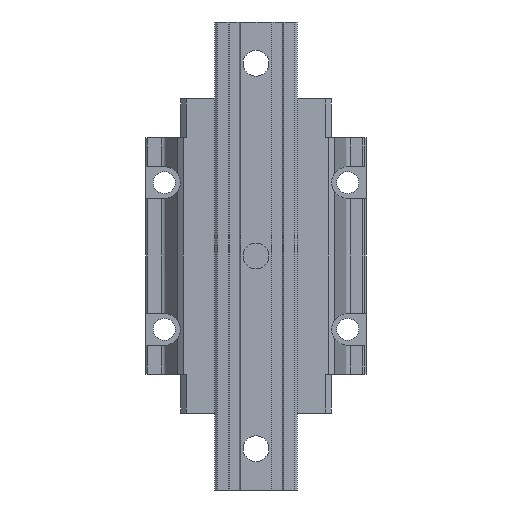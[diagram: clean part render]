
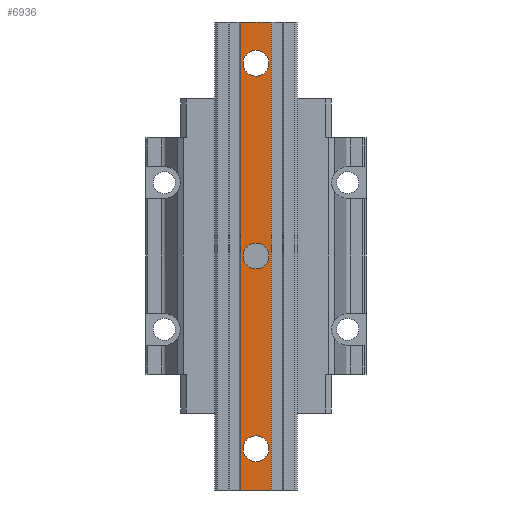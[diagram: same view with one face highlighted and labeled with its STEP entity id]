
A CAD part, front view. The second image highlights one B-rep face of the part: STEP entity #6936.
In plain terms, the highlighted planar face has unit normal (0, -1, 0).
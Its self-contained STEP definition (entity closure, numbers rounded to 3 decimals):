
#5860=DIRECTION('',(-1.,0.,0.));
#5861=VECTOR('',#5860,16.5);
#5862=CARTESIAN_POINT('',(8.25,-38.,-127.5));
#5863=LINE('',#5862,#5861);
#5864=DIRECTION('',(0.,0.,-1.));
#5865=VECTOR('',#5864,255.);
#5866=CARTESIAN_POINT('',(8.25,-38.,127.5));
#5867=LINE('',#5866,#5865);
#5868=CARTESIAN_POINT('',(0.,-38.,0.));
#5869=DIRECTION('',(0.,-1.,0.));
#5870=DIRECTION('',(1.,0.,0.));
#5871=AXIS2_PLACEMENT_3D('',#5868,#5869,#5870);
#5873=CARTESIAN_POINT('',(0.,-38.,0.));
#5874=DIRECTION('',(0.,-1.,0.));
#5875=DIRECTION('',(-1.,0.,0.));
#5876=AXIS2_PLACEMENT_3D('',#5873,#5874,#5875);
#5878=CARTESIAN_POINT('',(0.,-38.,105.));
#5879=DIRECTION('',(0.,-1.,0.));
#5880=DIRECTION('',(1.,0.,0.));
#5881=AXIS2_PLACEMENT_3D('',#5878,#5879,#5880);
#5883=CARTESIAN_POINT('',(0.,-38.,105.));
#5884=DIRECTION('',(0.,-1.,0.));
#5885=DIRECTION('',(-1.,0.,0.));
#5886=AXIS2_PLACEMENT_3D('',#5883,#5884,#5885);
#5888=CARTESIAN_POINT('',(0.,-38.,-105.));
#5889=DIRECTION('',(0.,-1.,0.));
#5890=DIRECTION('',(1.,0.,0.));
#5891=AXIS2_PLACEMENT_3D('',#5888,#5889,#5890);
#5893=CARTESIAN_POINT('',(0.,-38.,-105.));
#5894=DIRECTION('',(0.,-1.,0.));
#5895=DIRECTION('',(-1.,0.,0.));
#5896=AXIS2_PLACEMENT_3D('',#5893,#5894,#5895);
#5898=DIRECTION('',(0.,0.,-1.));
#5899=VECTOR('',#5898,255.);
#5900=CARTESIAN_POINT('',(-8.25,-38.,127.5));
#5901=LINE('',#5900,#5899);
#6123=DIRECTION('',(-1.,0.,0.));
#6124=VECTOR('',#6123,16.5);
#6125=CARTESIAN_POINT('',(8.25,-38.,127.5));
#6126=LINE('',#6125,#6124);
#6376=CARTESIAN_POINT('',(-8.25,-38.,-127.5));
#6377=VERTEX_POINT('',#6376);
#6378=CARTESIAN_POINT('',(8.25,-38.,-127.5));
#6379=VERTEX_POINT('',#6378);
#6452=CARTESIAN_POINT('',(8.25,-38.,127.5));
#6453=VERTEX_POINT('',#6452);
#6454=CARTESIAN_POINT('',(-8.25,-38.,127.5));
#6455=VERTEX_POINT('',#6454);
#6456=CARTESIAN_POINT('',(7.,-38.,0.));
#6457=CARTESIAN_POINT('',(-7.,-38.,0.));
#6458=VERTEX_POINT('',#6456);
#6459=VERTEX_POINT('',#6457);
#6460=CARTESIAN_POINT('',(7.,-38.,105.));
#6461=CARTESIAN_POINT('',(-7.,-38.,105.));
#6462=VERTEX_POINT('',#6460);
#6463=VERTEX_POINT('',#6461);
#6464=CARTESIAN_POINT('',(7.,-38.,-105.));
#6465=CARTESIAN_POINT('',(-7.,-38.,-105.));
#6466=VERTEX_POINT('',#6464);
#6467=VERTEX_POINT('',#6465);
#6905=CARTESIAN_POINT('',(-8.25,-38.,-127.5));
#6906=DIRECTION('',(0.,-1.,0.));
#6907=DIRECTION('',(1.,0.,0.));
#6908=AXIS2_PLACEMENT_3D('',#6905,#6906,#6907);
#6909=PLANE('',#6908);
#6910=ORIENTED_EDGE('',*,*,#6597,.T.);
#6912=ORIENTED_EDGE('',*,*,#6911,.F.);
#6914=ORIENTED_EDGE('',*,*,#6913,.F.);
#6915=ORIENTED_EDGE('',*,*,#6897,.T.);
#6916=EDGE_LOOP('',(#6910,#6912,#6914,#6915));
#6917=FACE_OUTER_BOUND('',#6916,.F.);
#6919=ORIENTED_EDGE('',*,*,#6918,.T.);
#6921=ORIENTED_EDGE('',*,*,#6920,.T.);
#6922=EDGE_LOOP('',(#6919,#6921));
#6923=FACE_BOUND('',#6922,.F.);
#6925=ORIENTED_EDGE('',*,*,#6924,.T.);
#6927=ORIENTED_EDGE('',*,*,#6926,.T.);
#6928=EDGE_LOOP('',(#6925,#6927));
#6929=FACE_BOUND('',#6928,.F.);
#6931=ORIENTED_EDGE('',*,*,#6930,.T.);
#6933=ORIENTED_EDGE('',*,*,#6932,.T.);
#6934=EDGE_LOOP('',(#6931,#6933));
#6935=FACE_BOUND('',#6934,.F.);
#6936=ADVANCED_FACE('',(#6917,#6923,#6929,#6935),#6909,.T.);
#5872=CIRCLE('',#5871,7.);
#5877=CIRCLE('',#5876,7.);
#5882=CIRCLE('',#5881,7.);
#5887=CIRCLE('',#5886,7.);
#5892=CIRCLE('',#5891,7.);
#5897=CIRCLE('',#5896,7.);
#6597=EDGE_CURVE('',#6379,#6377,#5863,.T.);
#6897=EDGE_CURVE('',#6453,#6379,#5867,.T.);
#6911=EDGE_CURVE('',#6455,#6377,#5901,.T.);
#6913=EDGE_CURVE('',#6453,#6455,#6126,.T.);
#6918=EDGE_CURVE('',#6458,#6459,#5872,.T.);
#6920=EDGE_CURVE('',#6459,#6458,#5877,.T.);
#6924=EDGE_CURVE('',#6462,#6463,#5882,.T.);
#6926=EDGE_CURVE('',#6463,#6462,#5887,.T.);
#6930=EDGE_CURVE('',#6466,#6467,#5892,.T.);
#6932=EDGE_CURVE('',#6467,#6466,#5897,.T.);
